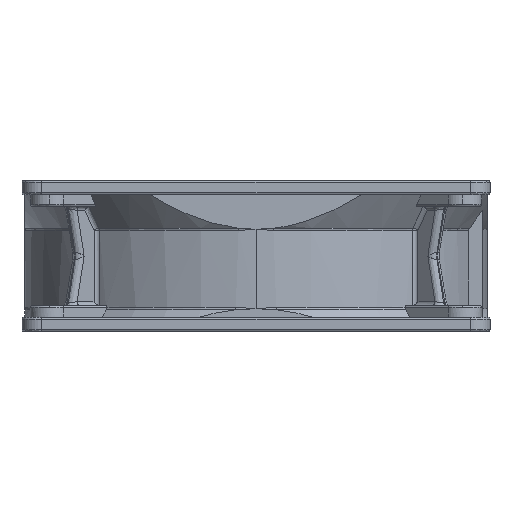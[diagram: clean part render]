
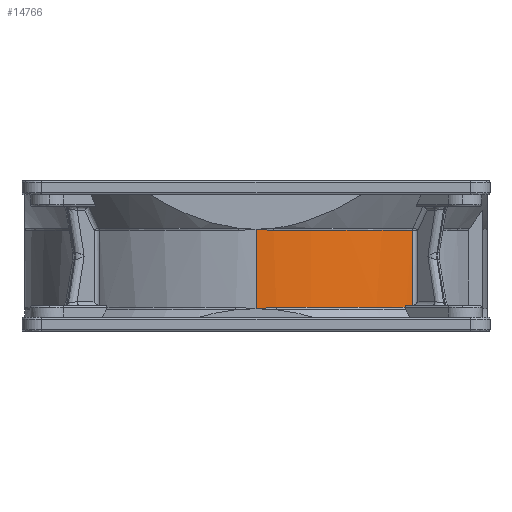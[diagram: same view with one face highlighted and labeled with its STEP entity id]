
A CAD part, left-side view. The second image highlights one B-rep face of the part: STEP entity #14766.
In plain terms, the highlighted cylindrical face has radius 58.8 mm (diameter 117.6 mm), a partial arc.
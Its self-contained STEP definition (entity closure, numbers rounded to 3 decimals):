
#386 = CARTESIAN_POINT ( 'NONE',  ( -44.961, -37.894, -32.143 ) ) ;
#414 = CARTESIAN_POINT ( 'NONE',  ( -43.306, -39.774, -31.7 ) ) ;
#783 = EDGE_CURVE ( 'NONE', #37767, #32230, #2367, .T. ) ;
#935 = AXIS2_PLACEMENT_3D ( 'NONE', #1816, #1761, #1731 ) ;
#1218 = ORIENTED_EDGE ( 'NONE', *, *, #24244, .T. ) ;
#1317 = DIRECTION ( 'NONE',  ( 0., 0., 1. ) ) ;
#1505 = ORIENTED_EDGE ( 'NONE', *, *, #15018, .T. ) ;
#1574 = CARTESIAN_POINT ( 'NONE',  ( -44.961, -37.894, -32.143 ) ) ;
#1731 = DIRECTION ( 'NONE',  ( -1., 0., 0. ) ) ;
#1761 = DIRECTION ( 'NONE',  ( 0., 0., 1. ) ) ;
#1816 = CARTESIAN_POINT ( 'NONE',  ( 0., 0., -32.143 ) ) ;
#1970 = AXIS2_PLACEMENT_3D ( 'NONE', #19819, #1317, #22897 ) ;
#2337 = VERTEX_POINT ( 'NONE', #31035 ) ;
#2367 = B_SPLINE_CURVE_WITH_KNOTS ( 'NONE', 3,
 ( #6784, #22308, #34769, #3462, #21959, #386 ),
 .UNSPECIFIED., .F., .F.,
 ( 4, 2, 4 ),
 ( 0., 0., 0.001 ),
 .UNSPECIFIED. ) ;
#2585 = CIRCLE ( 'NONE', #28707, 58.8 ) ;
#2799 = CARTESIAN_POINT ( 'NONE',  ( -58.74, -3.015, -12.602 ) ) ;
#3462 = CARTESIAN_POINT ( 'NONE',  ( -44.913, -37.951, -31.907 ) ) ;
#3882 = CARTESIAN_POINT ( 'NONE',  ( -43.299, -39.782, -31.7 ) ) ;
#4388 = VERTEX_POINT ( 'NONE', #10555 ) ;
#4700 = B_SPLINE_CURVE_WITH_KNOTS ( 'NONE', 3,
 ( #414, #10061, #3882, #25361 ),
 .UNSPECIFIED., .F., .F.,
 ( 4, 4 ),
 ( 0., 0. ),
 .UNSPECIFIED. ) ;
#4823 = CARTESIAN_POINT ( 'NONE',  ( -58.8, -1.817, -32.262 ) ) ;
#5902 = CYLINDRICAL_SURFACE ( 'NONE', #9810, 58.8 ) ;
#6784 = CARTESIAN_POINT ( 'NONE',  ( -44.638, -38.274, -31.7 ) ) ;
#7348 = ORIENTED_EDGE ( 'NONE', *, *, #783, .F. ) ;
#8278 = VECTOR ( 'NONE', #22829, 1000. ) ;
#8465 = EDGE_LOOP ( 'NONE', ( #19970, #1505, #15381, #22484, #7348, #13152, #26116, #28299, #1218 ) ) ;
#8946 = CARTESIAN_POINT ( 'NONE',  ( -58.575, -5.141, -32.143 ) ) ;
#9055 = CARTESIAN_POINT ( 'NONE',  ( -58.8, -1.539, -12.501 ) ) ;
#9285 = CIRCLE ( 'NONE', #1970, 58.8 ) ;
#9810 = AXIS2_PLACEMENT_3D ( 'NONE', #14300, #29297, #32493 ) ;
#10061 = CARTESIAN_POINT ( 'NONE',  ( -43.303, -39.778, -31.7 ) ) ;
#10555 = CARTESIAN_POINT ( 'NONE',  ( -43.306, -39.774, -31.7 ) ) ;
#11189 = EDGE_CURVE ( 'NONE', #37860, #32230, #26591, .T. ) ;
#11432 = VERTEX_POINT ( 'NONE', #14375 ) ;
#12490 = B_SPLINE_CURVE_WITH_KNOTS ( 'NONE', 3,
 ( #32895, #2799, #9055, #30228 ),
 .UNSPECIFIED., .F., .F.,
 ( 4, 4 ),
 ( 0., 1. ),
 .UNSPECIFIED. ) ;
#13152 = ORIENTED_EDGE ( 'NONE', *, *, #38089, .T. ) ;
#14152 = CARTESIAN_POINT ( 'NONE',  ( 0., 0., -12.602 ) ) ;
#14300 = CARTESIAN_POINT ( 'NONE',  ( 0., 0., -43.445 ) ) ;
#14375 = CARTESIAN_POINT ( 'NONE',  ( -43.295, -39.787, -31.7 ) ) ;
#14766 = ADVANCED_FACE ( 'NONE', ( #30138 ), #5902, .T. ) ;
#15018 = EDGE_CURVE ( 'NONE', #2337, #37436, #24580, .T. ) ;
#15318 = B_SPLINE_CURVE_WITH_KNOTS ( 'NONE', 3,
 ( #29312, #4823, #17390, #38245 ),
 .UNSPECIFIED., .F., .F.,
 ( 4, 4 ),
 ( 0., 1. ),
 .UNSPECIFIED. ) ;
#15381 = ORIENTED_EDGE ( 'NONE', *, *, #19398, .T. ) ;
#16670 = CARTESIAN_POINT ( 'NONE',  ( -43.295, -39.787, -43.445 ) ) ;
#17239 = DIRECTION ( 'NONE',  ( -1., 0., 0. ) ) ;
#17390 = CARTESIAN_POINT ( 'NONE',  ( -58.716, -3.532, -32.143 ) ) ;
#18077 = VERTEX_POINT ( 'NONE', #23575 ) ;
#19249 = LINE ( 'NONE', #16670, #28175 ) ;
#19398 = EDGE_CURVE ( 'NONE', #37436, #37860, #15318, .T. ) ;
#19819 = CARTESIAN_POINT ( 'NONE',  ( 0., 0., -31.7 ) ) ;
#19970 = ORIENTED_EDGE ( 'NONE', *, *, #32374, .T. ) ;
#21959 = CARTESIAN_POINT ( 'NONE',  ( -44.952, -37.905, -32.021 ) ) ;
#22308 = CARTESIAN_POINT ( 'NONE',  ( -44.718, -38.181, -31.7 ) ) ;
#22484 = ORIENTED_EDGE ( 'NONE', *, *, #11189, .T. ) ;
#22829 = DIRECTION ( 'NONE',  ( 0., 0., -1. ) ) ;
#22897 = DIRECTION ( 'NONE',  ( -1., 0., 0. ) ) ;
#23575 = CARTESIAN_POINT ( 'NONE',  ( -43.295, -39.787, -12.602 ) ) ;
#24244 = EDGE_CURVE ( 'NONE', #18077, #38130, #2585, .T. ) ;
#24580 = LINE ( 'NONE', #25674, #8278 ) ;
#25361 = CARTESIAN_POINT ( 'NONE',  ( -43.295, -39.787, -31.7 ) ) ;
#25674 = CARTESIAN_POINT ( 'NONE',  ( -58.8, 0., -43.445 ) ) ;
#25885 = DIRECTION ( 'NONE',  ( 0., 0., 1. ) ) ;
#26116 = ORIENTED_EDGE ( 'NONE', *, *, #32099, .T. ) ;
#26591 = CIRCLE ( 'NONE', #935, 58.8 ) ;
#26675 = CARTESIAN_POINT ( 'NONE',  ( -44.638, -38.274, -31.7 ) ) ;
#28175 = VECTOR ( 'NONE', #25885, 1000. ) ;
#28299 = ORIENTED_EDGE ( 'NONE', *, *, #30155, .T. ) ;
#28707 = AXIS2_PLACEMENT_3D ( 'NONE', #14152, #35069, #17239 ) ;
#29297 = DIRECTION ( 'NONE',  ( 0., 0., -1. ) ) ;
#29312 = CARTESIAN_POINT ( 'NONE',  ( -58.8, 0., -32.5 ) ) ;
#30138 = FACE_OUTER_BOUND ( 'NONE', #8465, .T. ) ;
#30155 = EDGE_CURVE ( 'NONE', #11432, #18077, #19249, .T. ) ;
#30228 = CARTESIAN_POINT ( 'NONE',  ( -58.8, 0., -12.3 ) ) ;
#31035 = CARTESIAN_POINT ( 'NONE',  ( -58.8, 0., -12.3 ) ) ;
#32099 = EDGE_CURVE ( 'NONE', #4388, #11432, #4700, .T. ) ;
#32230 = VERTEX_POINT ( 'NONE', #1574 ) ;
#32374 = EDGE_CURVE ( 'NONE', #38130, #2337, #12490, .T. ) ;
#32493 = DIRECTION ( 'NONE',  ( -1., 0., 0. ) ) ;
#32895 = CARTESIAN_POINT ( 'NONE',  ( -58.633, -4.425, -12.602 ) ) ;
#33813 = CARTESIAN_POINT ( 'NONE',  ( -58.8, 0., -32.5 ) ) ;
#34769 = CARTESIAN_POINT ( 'NONE',  ( -44.795, -38.09, -31.746 ) ) ;
#35069 = DIRECTION ( 'NONE',  ( 0., 0., -1. ) ) ;
#37436 = VERTEX_POINT ( 'NONE', #33813 ) ;
#37746 = CARTESIAN_POINT ( 'NONE',  ( -58.633, -4.425, -12.602 ) ) ;
#37767 = VERTEX_POINT ( 'NONE', #26675 ) ;
#37860 = VERTEX_POINT ( 'NONE', #8946 ) ;
#38089 = EDGE_CURVE ( 'NONE', #37767, #4388, #9285, .T. ) ;
#38130 = VERTEX_POINT ( 'NONE', #37746 ) ;
#38245 = CARTESIAN_POINT ( 'NONE',  ( -58.575, -5.141, -32.143 ) ) ;
